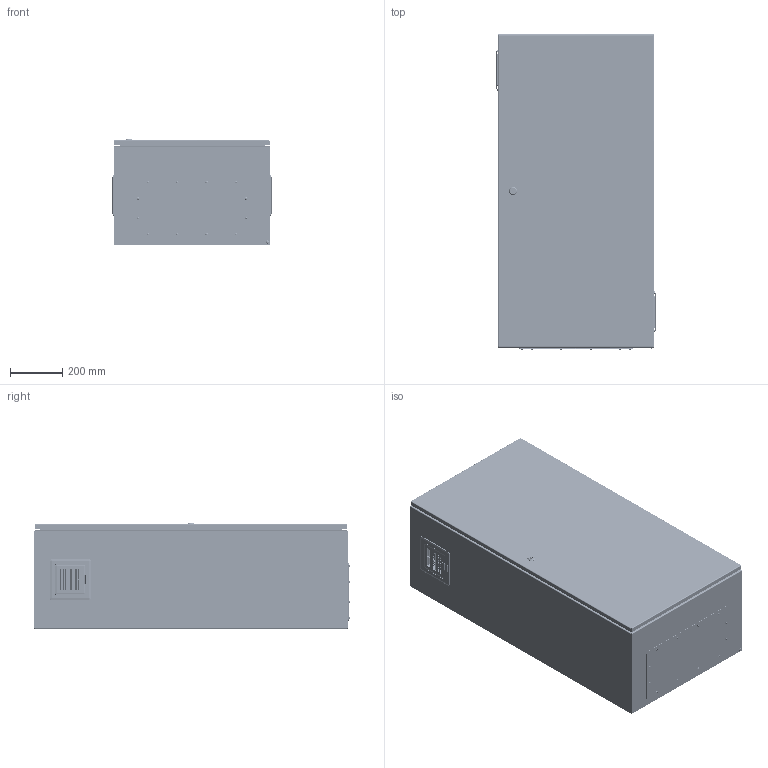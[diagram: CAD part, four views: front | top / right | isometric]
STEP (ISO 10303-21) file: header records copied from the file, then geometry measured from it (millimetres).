
FILE_DESCRIPTION (( 'STEP AP214' ), '1' );
FILE_NAME ('T-CCS 120.60.40-V.STEP', '2024-05-22T12:44:16', ( '' ), ( '' ), 'SwSTEP 2.0', 'SolidWorks 2019', '' );
FILE_SCHEMA (( 'AUTOMOTIVE_DESIGN' ));
Length unit declared in the file: millimetre
Products named in the file (1): T-CCS 120.60.40-V
Bounding box: 612.2 x 1207.22 x 405 mm (x, y, z)
Volume: 8345131.7 mm3; surface area: 8688457.8 mm2
Topology: 133 solids, 133 shells, 9211 faces, 25130 edges, 15726 vertices
Faces by surface type: plane 4346, cylinder 2717, bspline 796, torus 640, cone 618, sphere 94
Entity records: 544144 total; most frequent: CARTESIAN_POINT 221120, ORIENTED_EDGE 50102, DIRECTION 40626, EDGE_CURVE 25051, VERTEX_POINT 15724, AXIS2_PLACEMENT_3D 13734, VECTOR 13158, LINE 13158
